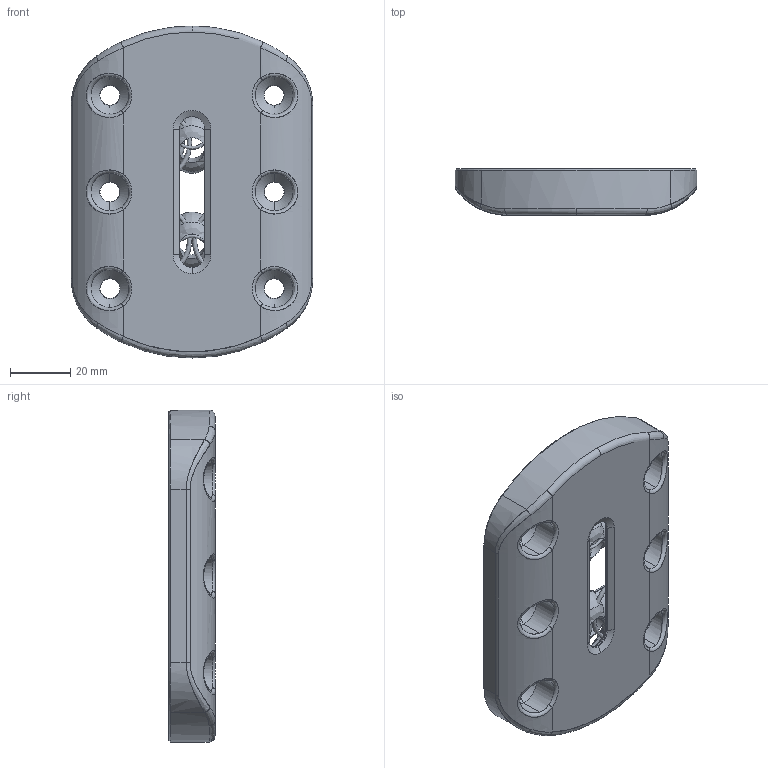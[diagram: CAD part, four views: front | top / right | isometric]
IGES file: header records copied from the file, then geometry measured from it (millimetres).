
Start section: 3D InterOp IGES (v. 2022 1.0.1), Spatial Corp. Copyright (c) 1999-2020.
Global section: file name: B142_B_06.11.210 Conan.igs; native system: Spatial Corp.; preprocessor: 3D InterOp GENERIC/IGES 3.0; author: Noname; organization: Noname; date: 20251208.163421; units: millimetre
Bounding box: 80 x 15.3 x 110 mm (x, y, z)
Volume: 6266.2 mm3; surface area: 35414.2 mm2
Topology: 2 solids, 2 shells, 930 faces, 7028 edges, 6857 vertices
Faces by surface type: revolution 412, bspline 394, extrusion 100, cylinder 20, cone 4
